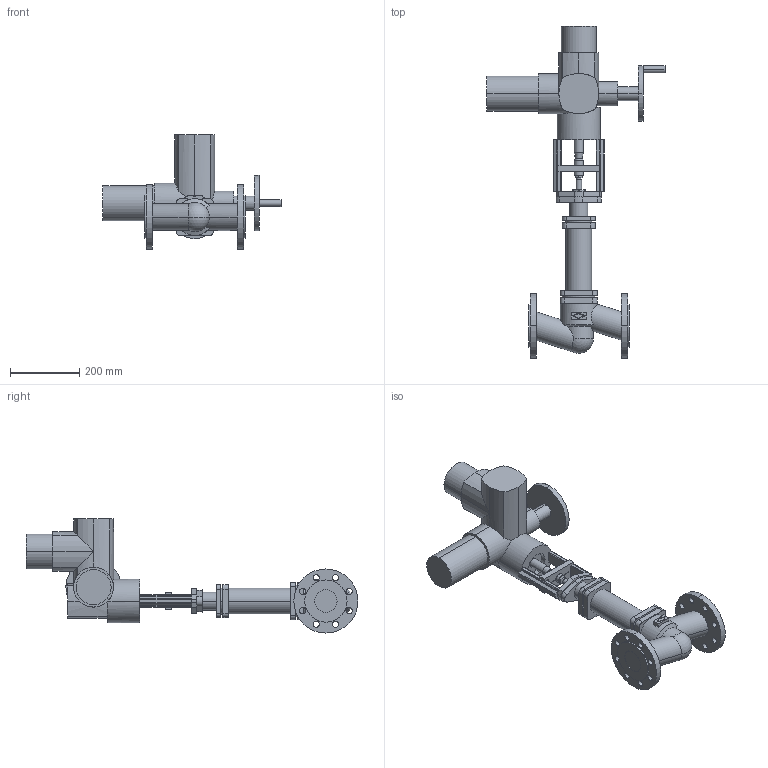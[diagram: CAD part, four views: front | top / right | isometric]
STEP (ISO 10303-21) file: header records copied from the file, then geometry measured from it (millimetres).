
FILE_DESCRIPTION(('OneSpaceDesigner STEP Export'),'2;1');
FILE_NAME('c000003146.stp','2007-01-19T11:43:55',(''),(''),'OneSpace Designer STEP processor for AP214 (Solid Model)','OneSpace Designer 14.00B 27-May-2006 (C) CoCreate Software GmbH','');
FILE_SCHEMA(('AUTOMOTIVE_DESIGN { 1 0 10303 214 1 1 1 1 }'));
Length unit declared in the file: millimetre
Products named in the file (2): 1; 2
Bounding box: 514 x 958 x 329.5 mm (x, y, z)
Volume: 12924503.2 mm3; surface area: 784317.8 mm2
Topology: 2 solids, 2 shells, 317 faces, 820 edges, 527 vertices
Faces by surface type: cylinder 166, plane 143, cone 6, sphere 2
Entity records: 10313 total; most frequent: CARTESIAN_POINT 2121, ORIENTED_EDGE 1636, DIRECTION 1393, SURFACE_CURVE 818, EDGE_CURVE 818, VERTEX_POINT 527, AXIS2_PLACEMENT_3D 472, VECTOR 449
